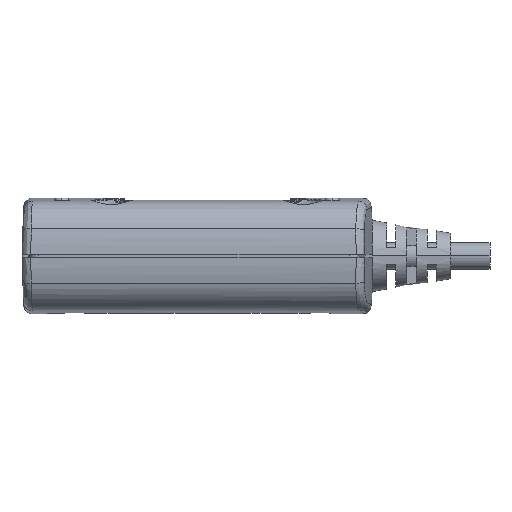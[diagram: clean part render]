
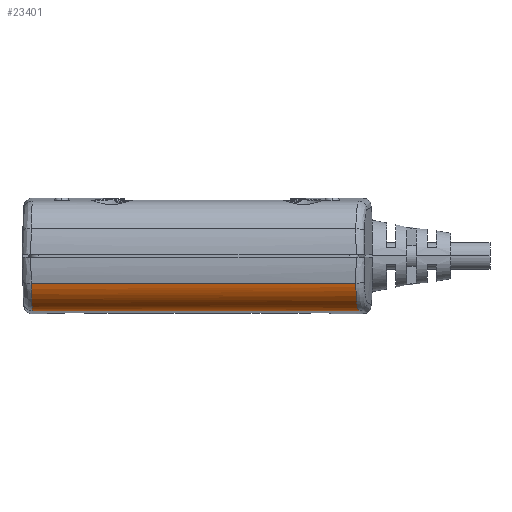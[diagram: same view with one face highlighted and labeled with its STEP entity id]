
A CAD part, left-side view. The second image highlights one B-rep face of the part: STEP entity #23401.
In plain terms, the highlighted cylindrical face has radius 6.35 mm (diameter 12.7 mm), a partial arc.
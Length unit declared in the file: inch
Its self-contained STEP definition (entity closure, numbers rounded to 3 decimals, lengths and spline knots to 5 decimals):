
#1645=CARTESIAN_POINT('',(-0.50763,1.13388,
-0.52509));
#1656=DIRECTION('',(0.,-1.,0.));
#1657=VECTOR('',#1656,2.29581);
#1658=CARTESIAN_POINT('',(-0.50763,1.13388,
-0.52509));
#1659=LINE('',#1658,#1657);
#1765=CARTESIAN_POINT('',(-0.50763,-1.16193,
-0.52509));
#1766=CARTESIAN_POINT('',(-0.51417,-1.16131,
-0.5245));
#1767=CARTESIAN_POINT('',(-0.52719,-1.16008,
-0.52281));
#1768=CARTESIAN_POINT('',(-0.54646,-1.15824,
-0.51874));
#1769=CARTESIAN_POINT('',(-0.56535,-1.15643,
-0.51317));
#1770=CARTESIAN_POINT('',(-0.58372,-1.15466,
-0.50614));
#1771=CARTESIAN_POINT('',(-0.60148,-1.15295,
-0.49769));
#1772=CARTESIAN_POINT('',(-0.61852,-1.15131,
-0.48787));
#1773=CARTESIAN_POINT('',(-0.63472,-1.14976,
-0.47676));
#1774=CARTESIAN_POINT('',(-0.64998,-1.14832,
-0.46443));
#1775=CARTESIAN_POINT('',(-0.66422,-1.14699,
-0.45095));
#1776=CARTESIAN_POINT('',(-0.67735,-1.1458,
-0.4364));
#1777=CARTESIAN_POINT('',(-0.6893,-1.14475,
-0.42088));
#1778=CARTESIAN_POINT('',(-0.69998,-1.14387,
-0.40449));
#1779=CARTESIAN_POINT('',(-0.70935,-1.14315,
-0.38732));
#1780=CARTESIAN_POINT('',(-0.71734,-1.14262,
-0.36949));
#1781=CARTESIAN_POINT('',(-0.72392,-1.14228,
-0.35109));
#1782=CARTESIAN_POINT('',(-0.72733,-1.14217,
-0.33853));
#1783=CARTESIAN_POINT('',(-0.7288,-1.14216,
-0.33219));
#1785=CARTESIAN_POINT('',(-0.72879,1.139,
-0.33219));
#1786=CARTESIAN_POINT('',(-0.72733,1.13883,
-0.33857));
#1787=CARTESIAN_POINT('',(-0.72389,1.1385,
-0.35119));
#1788=CARTESIAN_POINT('',(-0.71727,1.13801,
-0.36968));
#1789=CARTESIAN_POINT('',(-0.70923,1.13753,
-0.38758));
#1790=CARTESIAN_POINT('',(-0.69981,1.13707,
-0.40478));
#1791=CARTESIAN_POINT('',(-0.68907,1.13664,
-0.4212));
#1792=CARTESIAN_POINT('',(-0.67708,1.13623,
-0.43673));
#1793=CARTESIAN_POINT('',(-0.66391,1.13584,
-0.45127));
#1794=CARTESIAN_POINT('',(-0.64964,1.13548,
-0.46472));
#1795=CARTESIAN_POINT('',(-0.63438,1.13516,
-0.47702));
#1796=CARTESIAN_POINT('',(-0.61819,1.13486,
-0.48808));
#1797=CARTESIAN_POINT('',(-0.60118,1.1346,
-0.49785));
#1798=CARTESIAN_POINT('',(-0.58346,1.13438,
-0.50625));
#1799=CARTESIAN_POINT('',(-0.56513,1.1342,
-0.51324));
#1800=CARTESIAN_POINT('',(-0.54632,1.13405,
-0.51878));
#1801=CARTESIAN_POINT('',(-0.52711,1.13394,
-0.52282));
#1802=CARTESIAN_POINT('',(-0.51415,1.1339,
-0.52451));
#1803=CARTESIAN_POINT('',(-0.50763,1.13388,
-0.52509));
#2641=CARTESIAN_POINT('',(-0.7288,-1.14216,
-0.33219));
#2653=DIRECTION('',(0.,-1.,0.));
#2654=VECTOR('',#2653,2.28116);
#2655=CARTESIAN_POINT('',(-0.72879,1.139,
-0.33219));
#2656=LINE('',#2655,#2654);
#21395=VERTEX_POINT('',#2641);
#21396=VERTEX_POINT('',#1765);
#21410=VERTEX_POINT('',#1645);
#21412=VERTEX_POINT('',#1785);
#23388=CARTESIAN_POINT('',(-0.48517,1.21436,
-0.27611));
#23389=DIRECTION('',(0.,-1.,0.));
#23390=DIRECTION('',(-0.975,0.,-0.224));
#23391=AXIS2_PLACEMENT_3D('',#23388,#23389,#23390);
#23392=CYLINDRICAL_SURFACE('',#23391,0.25);
#23393=ORIENTED_EDGE('',*,*,#23378,.F.);
#23394=ORIENTED_EDGE('',*,*,#23268,.F.);
#23396=ORIENTED_EDGE('',*,*,#23395,.F.);
#23398=ORIENTED_EDGE('',*,*,#23397,.T.);
#23399=EDGE_LOOP('',(#23393,#23394,#23396,#23398));
#23400=FACE_OUTER_BOUND('',#23399,.F.);
#23401=ADVANCED_FACE('',(#23400),#23392,.T.);
#1784=B_SPLINE_CURVE_WITH_KNOTS('',3,(#1765,#1766,#1767,#1768,#1769,#1770,#1771,
#1772,#1773,#1774,#1775,#1776,#1777,#1778,#1779,#1780,#1781,#1782,#1783),
.UNSPECIFIED.,.F.,.F.,(4,1,1,1,1,1,1,1,1,1,1,1,1,1,1,1,4),(0.,0.0625,0.125,
0.1875,0.25,0.3125,0.375,0.4375,0.5,0.5625,0.625,0.6875,
0.75,0.8125,0.875,0.9375,1.),.UNSPECIFIED.);
#1804=B_SPLINE_CURVE_WITH_KNOTS('',3,(#1785,#1786,#1787,#1788,#1789,#1790,#1791,
#1792,#1793,#1794,#1795,#1796,#1797,#1798,#1799,#1800,#1801,#1802,#1803),
.UNSPECIFIED.,.F.,.F.,(4,1,1,1,1,1,1,1,1,1,1,1,1,1,1,1,4),(0.,0.0625,0.125,
0.1875,0.25,0.3125,0.375,0.4375,0.5,0.5625,0.625,0.6875,
0.75,0.8125,0.875,0.9375,1.),.UNSPECIFIED.);
#23268=EDGE_CURVE('',#21410,#21396,#1659,.T.);
#23378=EDGE_CURVE('',#21396,#21395,#1784,.T.);
#23395=EDGE_CURVE('',#21412,#21410,#1804,.T.);
#23397=EDGE_CURVE('',#21412,#21395,#2656,.T.);
